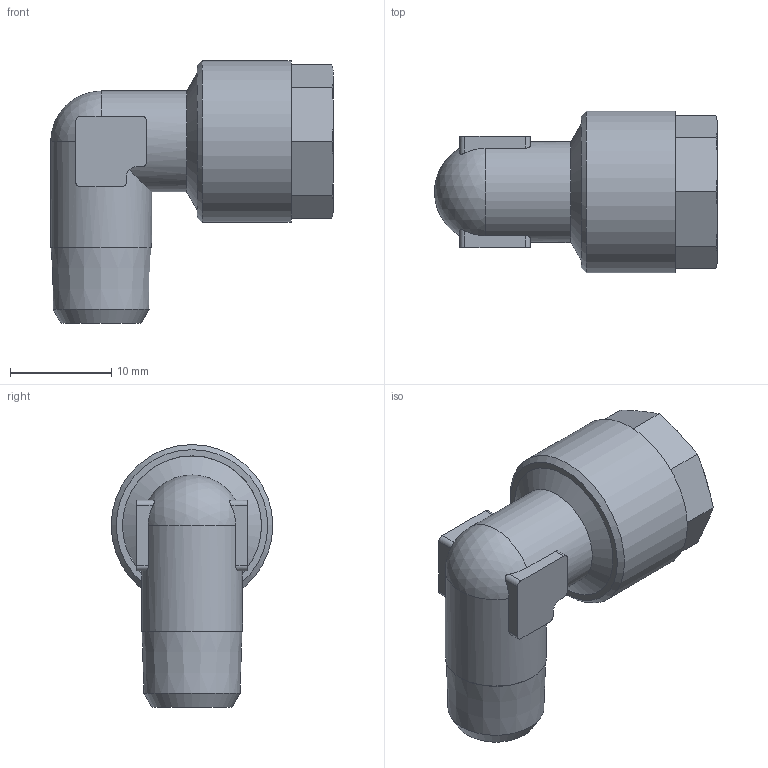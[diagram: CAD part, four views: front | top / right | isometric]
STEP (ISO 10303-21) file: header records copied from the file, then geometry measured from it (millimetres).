
FILE_DESCRIPTION(/* description */ (''),/* implementation_level */ '2;1');
FILE_NAME(/* name */ '11010_305_108_R18_18.07.17',/* time_stamp */ '2017-07-18T14:00:43+02:00',/* author */ (''),/* organization */ (''),/* preprocessor_version */ 'ST-DEVELOPER v16.5',/* originating_system */ 'HiCAD 2016 2102.2 Build 618',/* authorisation */ '');
FILE_SCHEMA (('AUTOMOTIVE_DESIGN { 1 0 10303 214 1 1 1 1 }'));
Length unit declared in the file: millimetre
Products named in the file (3): Root; 17007; R11010
Assembly tree (2 placements, depth 2):
  Root
    17007
    R11010
Bounding box: 28 x 16 x 26 mm (x, y, z)
Volume: 3219.2 mm3; surface area: 3678.8 mm2
Topology: 2 solids, 2 shells, 74 faces, 194 edges, 127 vertices
Faces by surface type: plane 30, cone 21, cylinder 21, torus 1, sphere 1
Full cylindrical faces by diameter (mm): 5.5 x1, 7 x1, 8.5 x1, 10 x3, 12.773 x1, 14 x1, 16 x1
Entity records: 5949 total; most frequent: CARTESIAN_POINT 2645, DIRECTION 366, PRESENTATION_STYLE_ASSIGNMENT 320, COLOUR_RGB 319, DRAUGHTING_PRE_DEFINED_CURVE_FONT 318, CURVE_STYLE 318, OVER_RIDING_STYLED_ITEM 318, ORIENTED_EDGE 318
